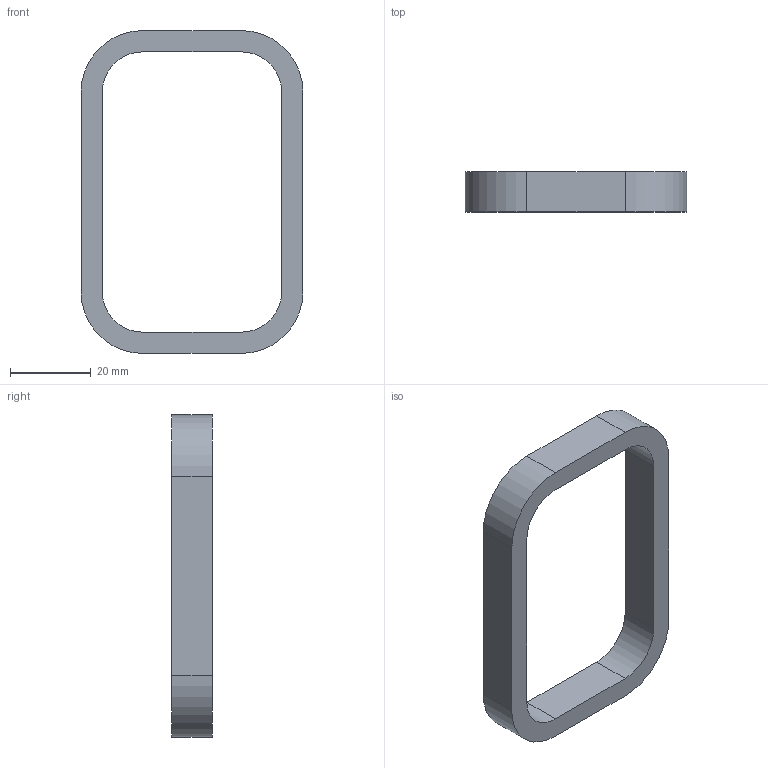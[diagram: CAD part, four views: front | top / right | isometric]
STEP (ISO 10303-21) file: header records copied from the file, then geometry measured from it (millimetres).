
FILE_DESCRIPTION (( 'STEP AP214' ), '1' );
FILE_NAME ('MT03.STEP', '2025-03-17T15:54:26', ( '' ), ( '' ), 'SwSTEP 2.0', 'SolidWorks 2023', '' );
FILE_SCHEMA (( 'AUTOMOTIVE_DESIGN' ));
Length unit declared in the file: millimetre
Products named in the file (1): MT03
Bounding box: 55 x 10 x 80 mm (x, y, z)
Volume: 11964.8 mm3; surface area: 6938 mm2
Topology: 1 solids, 1 shells, 18 faces, 48 edges, 32 vertices
Faces by surface type: plane 10, cylinder 8
Entity records: 595 total; most frequent: DIRECTION 102, CARTESIAN_POINT 99, ORIENTED_EDGE 96, EDGE_CURVE 48, AXIS2_PLACEMENT_3D 35, VERTEX_POINT 32, LINE 32, VECTOR 32
